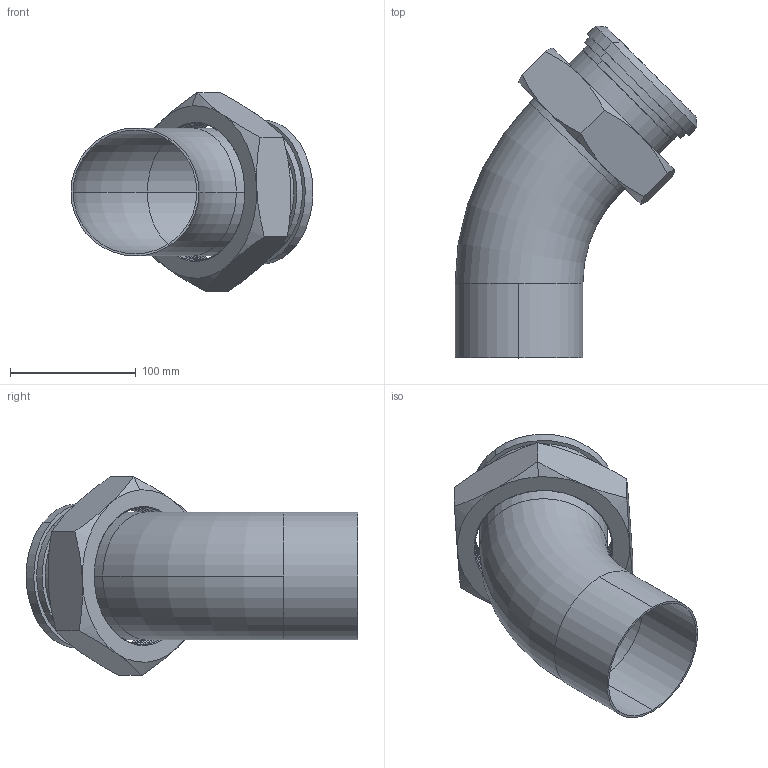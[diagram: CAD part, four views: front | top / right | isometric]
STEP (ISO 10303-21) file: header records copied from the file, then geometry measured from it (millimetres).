
FILE_DESCRIPTION (( 'STEP AP203' ), '1' );
FILE_NAME ('E2KP4.0.STEP', '2018-05-02T17:47:31', ( 'vneprd' ), ( 'Microsoft' ), 'SwSTEP 2.0', 'SolidWorks 2014', '' );
FILE_SCHEMA (( 'CONFIG_CONTROL_DESIGN' ));
Length unit declared in the file: inch
Products named in the file (4): E2KP4.0; E2KS4.0; 14PR4.0; 13H4.0
Assembly tree (3 placements, depth 2):
  E2KP4.0
    E2KS4.0
    14PR4.0
    13H4.0
Bounding box: 192.25 x 263.68 x 158.09 mm (x, y, z)
Volume: 382931.9 mm3; surface area: 223443.2 mm2
Topology: 3 solids, 3 shells, 83 faces, 194 edges, 120 vertices
Faces by surface type: cylinder 37, cone 22, plane 17, torus 4, bspline 3
Entity records: 4771 total; most frequent: CARTESIAN_POINT 2558, ORIENTED_EDGE 388, DIRECTION 375, EDGE_CURVE 194, AXIS2_PLACEMENT_3D 157, VERTEX_POINT 120, EDGE_LOOP 92, ADVANCED_FACE 83
